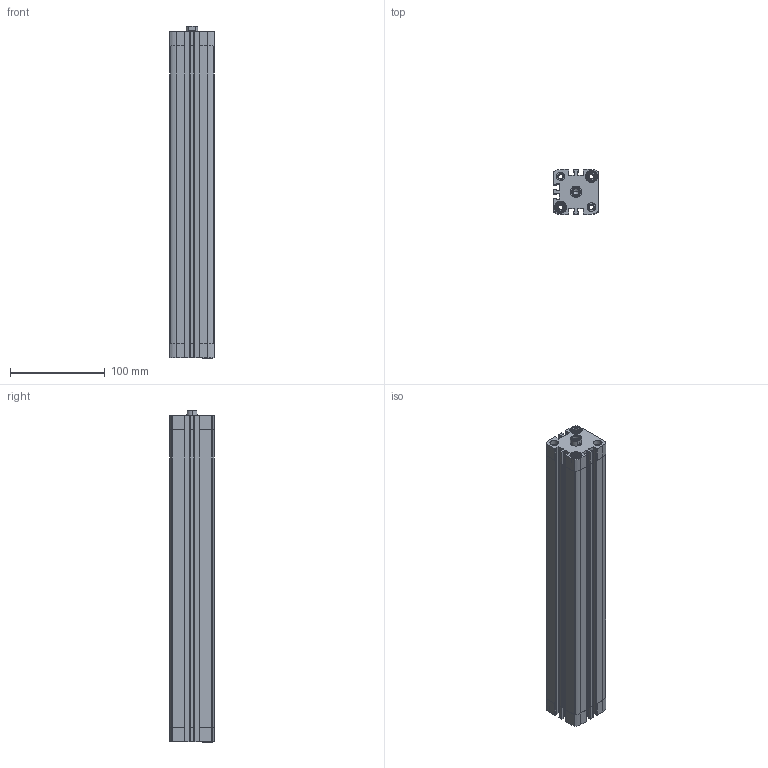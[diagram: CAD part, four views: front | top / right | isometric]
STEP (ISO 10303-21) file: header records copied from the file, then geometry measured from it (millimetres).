
FILE_DESCRIPTION (( 'STEP AP203' ), '1' );
FILE_NAME ('CCN32-300F.STEP', '2017-03-29T11:50:01', ( '' ), ( '' ), 'SwSTEP 2.0', 'SolidWorks 2016', '' );
FILE_SCHEMA (( 'CONFIG_CONTROL_DESIGN' ));
Length unit declared in the file: millimetre
Products named in the file (3): CCN-300---(Z); CCN-300_(KS); CCN32-300F
Assembly tree (2 placements, depth 2):
  CCN32-300F
    CCN-300---(Z)
    CCN-300_(KS)
Bounding box: 47 x 47 x 350 mm (x, y, z)
Volume: 416681.6 mm3; surface area: 169368.1 mm2
Topology: 2 solids, 2 shells, 479 faces, 1298 edges, 853 vertices
Faces by surface type: plane 267, cylinder 170, cone 42
Entity records: 15589 total; most frequent: CARTESIAN_POINT 2927, DIRECTION 2652, ORIENTED_EDGE 2592, EDGE_CURVE 1296, AXIS2_PLACEMENT_3D 970, VERTEX_POINT 853, VECTOR 712, LINE 712
